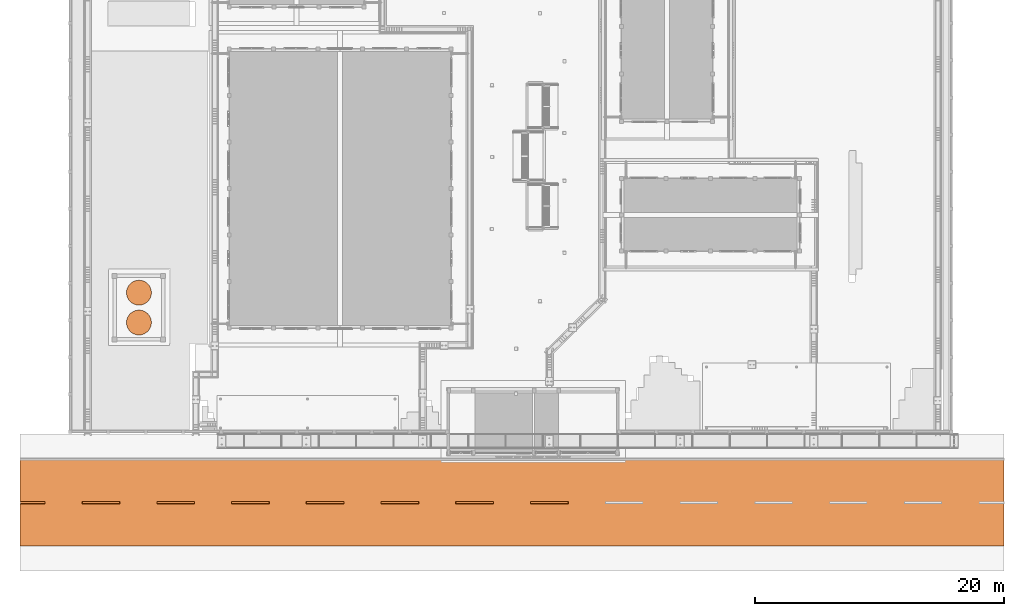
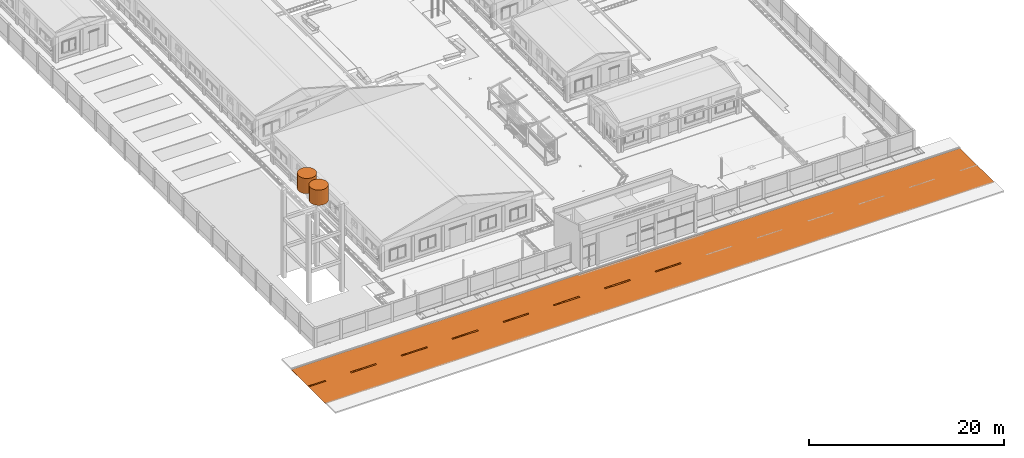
# One storey, part 145 of 151: 11 proxies.
"""IFC2X3 building model written with IfcOpenShell, lengths in metres."""

import ifcopenshell
import ifcopenshell.guid

model = None  # the IFC model being written
_history = None  # IfcOwnerHistory: only IFC2X3 demands one
_inside = {}  # id of a spatial element -> (the spatial element, [elements in it])
_under = {}  # id of a project, library or spatial element -> (it, [spatial elements below it])
_declared = {}  # id of a project -> (the project, [libraries it declares])
_typed = {}  # id of a type object -> (the type object, [elements of that type])
_made_of = {}  # id of a material, layer set ... -> (it, [elements and type objects made of it])


def new_model(schema):
    """Start an empty IFC model of exactly this schema.

    Asked for "IFC4X3", IfcOpenShell would pick the latest addendum, in which some entities
    have other attributes; the version numbers below select the first issue.
    IFC2X3 requires an IfcOwnerHistory on every rooted entity: one is made here for all.
    """
    global model, _history
    if schema == "IFC4X3":
        model = ifcopenshell.file(schema_version=(4, 3, 0, 0))
    else:
        model = ifcopenshell.file(schema=schema)
    _inside.clear()
    _under.clear()
    _declared.clear()
    _typed.clear()
    _made_of.clear()
    _history = None
    if model.schema == "IFC2X3":
        org = make("IfcOrganization", Name="unknown")
        user = make(
            "IfcPersonAndOrganization",
            ThePerson=make("IfcPerson", FamilyName="unknown"),
            TheOrganization=org,
        )
        app = make(
            "IfcApplication",
            ApplicationDeveloper=org,
            Version="unknown",
            ApplicationFullName="unknown",
            ApplicationIdentifier="unknown",
        )
        _history = make(
            "IfcOwnerHistory",
            OwningUser=user,
            OwningApplication=app,
            ChangeAction="ADDED",
            CreationDate=0,
        )
    return model


def make(cls, **values):
    """One entity of the class cls with the attributes given. An attribute that is None is left unset."""
    return model.create_entity(
        cls, **{name: value for name, value in values.items() if value is not None}
    )


def rooted(cls, **values):
    """An entity with a GlobalId (a new one), such as an element, a storey or a relation."""
    return make(cls, GlobalId=ifcopenshell.guid.new(), OwnerHistory=_history, **values)


def si_unit(unit_type, name, prefix=None):
    """IfcSIUnit, for example si_unit("LENGTHUNIT", "METRE", prefix="MILLI")."""
    return make("IfcSIUnit", UnitType=unit_type, Prefix=prefix, Name=name)


def assignment(units):
    """IfcUnitAssignment: the units of a project."""
    return None if units is None else make("IfcUnitAssignment", Units=units)


def point(xyz):
    """IfcCartesianPoint."""
    return None if xyz is None else make("IfcCartesianPoint", Coordinates=xyz)


def direction(xyz):
    """IfcDirection."""
    return None if xyz is None else make("IfcDirection", DirectionRatios=xyz)


def frame(location, z_axis=None, x_axis=None):
    """IfcAxis2Placement3D, a coordinate frame: its origin and axes. An axis left out is left unset."""
    return make(
        "IfcAxis2Placement3D",
        Location=point(location),
        Axis=direction(z_axis),
        RefDirection=direction(x_axis),
    )


def origin():
    """The frame at (0, 0, 0) with its axes left unset."""
    return frame((0.0, 0.0, 0.0))


def origin_with_axes():
    """The frame at (0, 0, 0) with the z axis (0, 0, 1) and the x axis (1, 0, 0) written out."""
    return frame((0.0, 0.0, 0.0), z_axis=(0.0, 0.0, 1.0), x_axis=(1.0, 0.0, 0.0))


def place(relative_to, where):
    """IfcLocalPlacement: puts the frame where relative to a parent placement (None: the world)."""
    return make(
        "IfcLocalPlacement", PlacementRelTo=relative_to, RelativePlacement=where
    )


def context(
    kind, dimensions, precision=None, world=None, true_north=None, identifier=None
):
    """IfcGeometricRepresentationContext, for example the 3D "Model" context."""
    return make(
        "IfcGeometricRepresentationContext",
        ContextIdentifier=identifier,
        ContextType=kind,
        CoordinateSpaceDimension=dimensions,
        Precision=precision,
        WorldCoordinateSystem=world,
        TrueNorth=true_north,
    )


def subcontext(parent, identifier, kind, view, scale=None):
    """IfcGeometricRepresentationSubContext, for example "Body" below "Model"."""
    return make(
        "IfcGeometricRepresentationSubContext",
        ContextIdentifier=identifier,
        ContextType=kind,
        ParentContext=parent,
        TargetScale=scale,
        TargetView=view,
    )


def project(units=None, contexts=None):
    """IfcProject with its units and contexts."""
    return rooted(
        "IfcProject",
        Name="project",
        RepresentationContexts=contexts,
        UnitsInContext=assignment(units),
    )


def spatial(cls, under=None, at=None, **own):
    """A site, building, storey or space (cls), placed at a placement, below another one or the project."""
    s = rooted(cls, ObjectPlacement=at, **own)
    if under is not None:
        _under.setdefault(under.id(), (under, []))[1].append(s)
    return s


def faces_of(points, faces, orient=None, outer=None):
    """IfcFace entities. A face is a list of loops; a loop is a list of indices into points, from 0.

    orient and outer hold one flag for each loop. By default every Orientation is true, the
    first loop of a face is its IfcFaceOuterBound and the others are IfcFaceBound.
    """
    made = []
    for i, loops in enumerate(faces):
        bounds = []
        for j, loop in enumerate(loops):
            is_outer = j == 0 if outer is None else outer[i][j]
            bounds.append(
                make(
                    "IfcFaceOuterBound" if is_outer else "IfcFaceBound",
                    Bound=make("IfcPolyLoop", Polygon=[points[k] for k in loop]),
                    Orientation=True if orient is None else orient[i][j],
                )
            )
        made.append(make("IfcFace", Bounds=bounds))
    return made


def faceted_brep(points, faces, orient=None, outer=None, voids=None):
    """IfcFacetedBrep: a solid bounded by flat faces; with voids (closed shells), ...WithVoids."""
    shared = [point(p) for p in points]
    hull = make("IfcClosedShell", CfsFaces=faces_of(shared, faces, orient, outer))
    if voids is None:
        return make("IfcFacetedBrep", Outer=hull)
    return make(
        "IfcFacetedBrepWithVoids",
        Outer=hull,
        Voids=[
            make(cls, CfsFaces=faces_of(shared, fs, o, b)) for cls, fs, o, b in voids
        ],
    )


def shape(context_of_items, identifier, shape_type, items):
    """IfcShapeRepresentation: the items that make up one representation, for example the "Body"."""
    return make(
        "IfcShapeRepresentation",
        ContextOfItems=context_of_items,
        RepresentationIdentifier=identifier,
        RepresentationType=shape_type,
        Items=items,
    )


def made_of(thing, what):
    """Note that an element or type object is made of a material, layer set ...; save() writes the relation."""
    if what is not None:
        _made_of.setdefault(what.id(), (what, []))[1].append(thing)
    return thing


def element(
    cls,
    number,
    at=None,
    inside=None,
    cuts=None,
    type_object=None,
    material=None,
    context=None,
    identifier="Body",
    shape_type=None,
    held_by="IfcProductDefinitionShape",
    body=None,
    shapes=None,
    **own,
):
    """One element of the class cls, such as IfcWall. Its Tag is "e" and its number.

    at: its placement. inside: the storey or other place that contains it. cuts: it is an
    opening in that element (IfcRelVoidsElement). A single representation is given by context,
    identifier, shape_type and body (its items); several are given by shapes. held_by: the class
    of the entity that holds the representations. save() writes the other relations.
    """
    e = rooted(cls, Tag="e%d" % number, ObjectPlacement=at, **own)
    if body is not None:
        shapes = [shape(context, identifier, shape_type, body)]
    if shapes is not None:
        e.Representation = make(held_by, Representations=shapes)
    if inside is not None:
        _inside.setdefault(inside.id(), (inside, []))[1].append(e)
    if cuts is not None:
        rooted(
            "IfcRelVoidsElement", RelatingBuildingElement=cuts, RelatedOpeningElement=e
        )
    if type_object is not None:
        _typed.setdefault(type_object.id(), (type_object, []))[1].append(e)
    return made_of(e, material)


def aggregate(whole, parts):
    """IfcRelAggregates: a whole, such as a stair, and the parts it consists of."""
    return rooted("IfcRelAggregates", RelatingObject=whole, RelatedObjects=parts)


def save(model, path):
    """Write the relations noted so far, then the file.

    IfcRelAggregates (storeys below a building ...), IfcRelContainedInSpatialStructure (elements
    in a storey), IfcRelDefinesByType, IfcRelAssociatesMaterial and IfcRelDeclares: one each for
    every whole, place, type object, material and project.
    """
    for whole, parts in _under.values():
        aggregate(whole, parts)
    for where, things in _inside.values():
        rooted(
            "IfcRelContainedInSpatialStructure",
            RelatedElements=things,
            RelatingStructure=where,
        )
    for kind, things in _typed.values():
        rooted("IfcRelDefinesByType", RelatedObjects=things, RelatingType=kind)
    for what, things in _made_of.values():
        rooted("IfcRelAssociatesMaterial", RelatedObjects=things, RelatingMaterial=what)
    for by, libraries in _declared.values():
        rooted("IfcRelDeclares", RelatingContext=by, RelatedDefinitions=libraries)
    model.write(path)


model = new_model("IFC2X3")

# Units and contexts
model_context = context("Model", 3, precision=1e-05, world=origin_with_axes())
body_context = subcontext(model_context, "Body", "Model", "MODEL_VIEW")
ifc_project = project(units=[si_unit("LENGTHUNIT", "METRE"), si_unit("AREAUNIT", "SQUARE_METRE"), si_unit("VOLUMEUNIT", "CUBIC_METRE"), si_unit("PLANEANGLEUNIT", "RADIAN")], contexts=[model_context])

# Site, building, storey
site_placement = place(None, origin_with_axes())
site = spatial("IfcSite", under=ifc_project, at=site_placement, Name="Predio Los Mangos - Morales, San Martín", CompositionType="ELEMENT")
building_placement = place(site_placement, origin())
building = spatial("IfcBuilding", under=site, at=building_placement, Name="Hogar de Refugio Temporal", CompositionType="ELEMENT")
storey_placement = place(building_placement, origin())
storey = spatial("IfcBuildingStorey", under=building, at=storey_placement, Name="NIVEL 1 (NPT +0.00)", CompositionType="ELEMENT", Elevation=0.0)

# Proxies
proxy_1_placement = place(storey_placement, origin())
element("IfcBuildingElementProxy", 1, at=proxy_1_placement, inside=storey, Name="pista", ObjectType="Losa deportiva y vía", context=body_context, shape_type="Brep", body=[
    faceted_brep([(-3.0, 8.8, -0.02), (-3.0, 15.8, -0.02), (76.0, 15.8, -0.02), (76.0, 8.8, -0.02), (-3.0, 8.8, 0.02), (76.0, 8.8, 0.02), (76.0, 15.8, 0.02), (-3.0, 15.8, 0.02)], [[[0, 1, 2, 3]], [[4, 5, 6, 7]], [[0, 3, 5, 4]], [[3, 2, 6, 5]], [[2, 1, 7, 6]], [[1, 0, 4, 7]]]),
])
proxy_2_placement = place(storey_placement, origin())
element("IfcBuildingElementProxy", 2, at=proxy_2_placement, inside=storey, Name="linea_carril", ObjectType="Losa deportiva y vía", context=body_context, shape_type="Brep", body=[
    faceted_brep([(-3.0, 12.22, 0.02), (-3.0, 12.38, 0.02), (-1.0, 12.38, 0.02), (-1.0, 12.22, 0.02), (-3.0, 12.22, 0.025), (-1.0, 12.22, 0.025), (-1.0, 12.38, 0.025), (-3.0, 12.38, 0.025)], [[[0, 1, 2, 3]], [[4, 5, 6, 7]], [[0, 3, 5, 4]], [[3, 2, 6, 5]], [[2, 1, 7, 6]], [[1, 0, 4, 7]]]),
])
proxy_3_placement = place(storey_placement, origin())
element("IfcBuildingElementProxy", 3, at=proxy_3_placement, inside=storey, Name="linea_carril", ObjectType="Losa deportiva y vía", context=body_context, shape_type="Brep", body=[
    faceted_brep([(2.0, 12.22, 0.02), (2.0, 12.38, 0.02), (5.0, 12.38, 0.02), (5.0, 12.22, 0.02), (2.0, 12.22, 0.025), (5.0, 12.22, 0.025), (5.0, 12.38, 0.025), (2.0, 12.38, 0.025)], [[[0, 1, 2, 3]], [[4, 5, 6, 7]], [[0, 3, 5, 4]], [[3, 2, 6, 5]], [[2, 1, 7, 6]], [[1, 0, 4, 7]]]),
])
proxy_4_placement = place(storey_placement, origin())
element("IfcBuildingElementProxy", 4, at=proxy_4_placement, inside=storey, Name="linea_carril", ObjectType="Losa deportiva y vía", context=body_context, shape_type="Brep", body=[
    faceted_brep([(8.0, 12.22, 0.02), (8.0, 12.38, 0.02), (11.0, 12.38, 0.02), (11.0, 12.22, 0.02), (8.0, 12.22, 0.025), (11.0, 12.22, 0.025), (11.0, 12.38, 0.025), (8.0, 12.38, 0.025)], [[[0, 1, 2, 3]], [[4, 5, 6, 7]], [[0, 3, 5, 4]], [[3, 2, 6, 5]], [[2, 1, 7, 6]], [[1, 0, 4, 7]]]),
])
proxy_5_placement = place(storey_placement, origin())
element("IfcBuildingElementProxy", 5, at=proxy_5_placement, inside=storey, Name="linea_carril", ObjectType="Losa deportiva y vía", context=body_context, shape_type="Brep", body=[
    faceted_brep([(14.0, 12.22, 0.02), (14.0, 12.38, 0.02), (17.0, 12.38, 0.02), (17.0, 12.22, 0.02), (14.0, 12.22, 0.025), (17.0, 12.22, 0.025), (17.0, 12.38, 0.025), (14.0, 12.38, 0.025)], [[[0, 1, 2, 3]], [[4, 5, 6, 7]], [[0, 3, 5, 4]], [[3, 2, 6, 5]], [[2, 1, 7, 6]], [[1, 0, 4, 7]]]),
])
proxy_6_placement = place(storey_placement, origin())
element("IfcBuildingElementProxy", 6, at=proxy_6_placement, inside=storey, Name="linea_carril", ObjectType="Losa deportiva y vía", context=body_context, shape_type="Brep", body=[
    faceted_brep([(20.0, 12.22, 0.02), (20.0, 12.38, 0.02), (23.0, 12.38, 0.02), (23.0, 12.22, 0.02), (20.0, 12.22, 0.025), (23.0, 12.22, 0.025), (23.0, 12.38, 0.025), (20.0, 12.38, 0.025)], [[[0, 1, 2, 3]], [[4, 5, 6, 7]], [[0, 3, 5, 4]], [[3, 2, 6, 5]], [[2, 1, 7, 6]], [[1, 0, 4, 7]]]),
])
proxy_7_placement = place(storey_placement, origin())
element("IfcBuildingElementProxy", 7, at=proxy_7_placement, inside=storey, Name="linea_carril", ObjectType="Losa deportiva y vía", context=body_context, shape_type="Brep", body=[
    faceted_brep([(26.0, 12.22, 0.02), (26.0, 12.38, 0.02), (29.0, 12.38, 0.02), (29.0, 12.22, 0.02), (26.0, 12.22, 0.025), (29.0, 12.22, 0.025), (29.0, 12.38, 0.025), (26.0, 12.38, 0.025)], [[[0, 1, 2, 3]], [[4, 5, 6, 7]], [[0, 3, 5, 4]], [[3, 2, 6, 5]], [[2, 1, 7, 6]], [[1, 0, 4, 7]]]),
])
proxy_8_placement = place(storey_placement, origin())
element("IfcBuildingElementProxy", 8, at=proxy_8_placement, inside=storey, Name="linea_carril", ObjectType="Losa deportiva y vía", context=body_context, shape_type="Brep", body=[
    faceted_brep([(32.0, 12.22, 0.02), (32.0, 12.38, 0.02), (35.0, 12.38, 0.02), (35.0, 12.22, 0.02), (32.0, 12.22, 0.025), (35.0, 12.22, 0.025), (35.0, 12.38, 0.025), (32.0, 12.38, 0.025)], [[[0, 1, 2, 3]], [[4, 5, 6, 7]], [[0, 3, 5, 4]], [[3, 2, 6, 5]], [[2, 1, 7, 6]], [[1, 0, 4, 7]]]),
])
proxy_9_placement = place(storey_placement, origin())
element("IfcBuildingElementProxy", 9, at=proxy_9_placement, inside=storey, Name="linea_carril", ObjectType="Losa deportiva y vía", context=body_context, shape_type="Brep", body=[
    faceted_brep([(38.0, 12.22, 0.02), (38.0, 12.38, 0.02), (41.0, 12.38, 0.02), (41.0, 12.22, 0.02), (38.0, 12.22, 0.025), (41.0, 12.22, 0.025), (41.0, 12.38, 0.025), (38.0, 12.38, 0.025)], [[[0, 1, 2, 3]], [[4, 5, 6, 7]], [[0, 3, 5, 4]], [[3, 2, 6, 5]], [[2, 1, 7, 6]], [[1, 0, 4, 7]]]),
])
proxy_10_placement = place(storey_placement, origin())
element("IfcBuildingElementProxy", 10, at=proxy_10_placement, inside=storey, Name="Cylinder", ObjectType="Elemento", context=body_context, shape_type="Brep", body=[
    faceted_brep([(6.55, 27.75, 11.25), (6.55, 27.75, 13.15), (6.7451, 27.7308, 13.15), (6.7451, 27.7308, 11.25), (6.9327, 27.6739, 13.15), (6.9327, 27.6739, 11.25), (7.1056, 27.5815, 13.15), (7.1056, 27.5815, 11.25), (7.2571, 27.4571, 13.15), (7.2571, 27.4571, 11.25), (7.3815, 27.3056, 13.15), (7.3815, 27.3056, 11.25), (7.4739, 27.1327, 13.15), (7.4739, 27.1327, 11.25), (7.5308, 26.9451, 13.15), (7.5308, 26.9451, 11.25), (7.55, 26.75, 13.15), (7.55, 26.75, 11.25), (7.5308, 26.5549, 13.15), (7.5308, 26.5549, 11.25), (7.4739, 26.3673, 13.15), (7.4739, 26.3673, 11.25), (7.3815, 26.1944, 13.15), (7.3815, 26.1944, 11.25), (7.2571, 26.0429, 13.15), (7.2571, 26.0429, 11.25), (7.1056, 25.9185, 13.15), (7.1056, 25.9185, 11.25), (6.9327, 25.8261, 13.15), (6.9327, 25.8261, 11.25), (6.7451, 25.7692, 13.15), (6.7451, 25.7692, 11.25), (6.55, 25.75, 13.15), (6.55, 25.75, 11.25), (6.3549, 25.7692, 13.15), (6.3549, 25.7692, 11.25), (6.1673, 25.8261, 13.15), (6.1673, 25.8261, 11.25), (5.9944, 25.9185, 13.15), (5.9944, 25.9185, 11.25), (5.8429, 26.0429, 13.15), (5.8429, 26.0429, 11.25), (5.7185, 26.1944, 13.15), (5.7185, 26.1944, 11.25), (5.6261, 26.3673, 13.15), (5.6261, 26.3673, 11.25), (5.5692, 26.5549, 13.15), (5.5692, 26.5549, 11.25), (5.55, 26.75, 13.15), (5.55, 26.75, 11.25), (5.5692, 26.9451, 13.15), (5.5692, 26.9451, 11.25), (5.6261, 27.1327, 13.15), (5.6261, 27.1327, 11.25), (5.7185, 27.3056, 13.15), (5.7185, 27.3056, 11.25), (5.8429, 27.4571, 13.15), (5.8429, 27.4571, 11.25), (5.9944, 27.5815, 13.15), (5.9944, 27.5815, 11.25), (6.1673, 27.6739, 13.15), (6.1673, 27.6739, 11.25), (6.3549, 27.7308, 13.15), (6.3549, 27.7308, 11.25)], [[[0, 1, 2, 3]], [[3, 2, 4, 5]], [[5, 4, 6, 7]], [[7, 6, 8, 9]], [[9, 8, 10, 11]], [[11, 10, 12, 13]], [[13, 12, 14, 15]], [[15, 14, 16, 17]], [[17, 16, 18, 19]], [[19, 18, 20, 21]], [[21, 20, 22, 23]], [[23, 22, 24, 25]], [[25, 24, 26, 27]], [[27, 26, 28, 29]], [[29, 28, 30, 31]], [[31, 30, 32, 33]], [[33, 32, 34, 35]], [[35, 34, 36, 37]], [[37, 36, 38, 39]], [[39, 38, 40, 41]], [[41, 40, 42, 43]], [[43, 42, 44, 45]], [[45, 44, 46, 47]], [[47, 46, 48, 49]], [[49, 48, 50, 51]], [[51, 50, 52, 53]], [[53, 52, 54, 55]], [[55, 54, 56, 57]], [[57, 56, 58, 59]], [[59, 58, 60, 61]], [[2, 1, 62, 60, 58, 56, 54, 52, 50, 48, 46, 44, 42, 40, 38, 36, 34, 32, 30, 28, 26, 24, 22, 20, 18, 16, 14, 12, 10, 8, 6, 4]], [[61, 60, 62, 63]], [[63, 62, 1, 0]], [[0, 3, 5, 7, 9, 11, 13, 15, 17, 19, 21, 23, 25, 27, 29, 31, 33, 35, 37, 39, 41, 43, 45, 47, 49, 51, 53, 55, 57, 59, 61, 63]]]),
])
proxy_11_placement = place(storey_placement, origin())
element("IfcBuildingElementProxy", 11, at=proxy_11_placement, inside=storey, Name="Cylinder", ObjectType="Elemento", context=body_context, shape_type="Brep", body=[
    faceted_brep([(6.55, 30.15, 11.25), (6.55, 30.15, 13.15), (6.7451, 30.1308, 13.15), (6.7451, 30.1308, 11.25), (6.9327, 30.0739, 13.15), (6.9327, 30.0739, 11.25), (7.1056, 29.9815, 13.15), (7.1056, 29.9815, 11.25), (7.2571, 29.8571, 13.15), (7.2571, 29.8571, 11.25), (7.3815, 29.7056, 13.15), (7.3815, 29.7056, 11.25), (7.4739, 29.5327, 13.15), (7.4739, 29.5327, 11.25), (7.5308, 29.3451, 13.15), (7.5308, 29.3451, 11.25), (7.55, 29.15, 13.15), (7.55, 29.15, 11.25), (7.5308, 28.9549, 13.15), (7.5308, 28.9549, 11.25), (7.4739, 28.7673, 13.15), (7.4739, 28.7673, 11.25), (7.3815, 28.5944, 13.15), (7.3815, 28.5944, 11.25), (7.2571, 28.4429, 13.15), (7.2571, 28.4429, 11.25), (7.1056, 28.3185, 13.15), (7.1056, 28.3185, 11.25), (6.9327, 28.2261, 13.15), (6.9327, 28.2261, 11.25), (6.7451, 28.1692, 13.15), (6.7451, 28.1692, 11.25), (6.55, 28.15, 13.15), (6.55, 28.15, 11.25), (6.3549, 28.1692, 13.15), (6.3549, 28.1692, 11.25), (6.1673, 28.2261, 13.15), (6.1673, 28.2261, 11.25), (5.9944, 28.3185, 13.15), (5.9944, 28.3185, 11.25), (5.8429, 28.4429, 13.15), (5.8429, 28.4429, 11.25), (5.7185, 28.5944, 13.15), (5.7185, 28.5944, 11.25), (5.6261, 28.7673, 13.15), (5.6261, 28.7673, 11.25), (5.5692, 28.9549, 13.15), (5.5692, 28.9549, 11.25), (5.55, 29.15, 13.15), (5.55, 29.15, 11.25), (5.5692, 29.3451, 13.15), (5.5692, 29.3451, 11.25), (5.6261, 29.5327, 13.15), (5.6261, 29.5327, 11.25), (5.7185, 29.7056, 13.15), (5.7185, 29.7056, 11.25), (5.8429, 29.8571, 13.15), (5.8429, 29.8571, 11.25), (5.9944, 29.9815, 13.15), (5.9944, 29.9815, 11.25), (6.1673, 30.0739, 13.15), (6.1673, 30.0739, 11.25), (6.3549, 30.1308, 13.15), (6.3549, 30.1308, 11.25)], [[[0, 1, 2, 3]], [[3, 2, 4, 5]], [[5, 4, 6, 7]], [[7, 6, 8, 9]], [[9, 8, 10, 11]], [[11, 10, 12, 13]], [[13, 12, 14, 15]], [[15, 14, 16, 17]], [[17, 16, 18, 19]], [[19, 18, 20, 21]], [[21, 20, 22, 23]], [[23, 22, 24, 25]], [[25, 24, 26, 27]], [[27, 26, 28, 29]], [[29, 28, 30, 31]], [[31, 30, 32, 33]], [[33, 32, 34, 35]], [[35, 34, 36, 37]], [[37, 36, 38, 39]], [[39, 38, 40, 41]], [[41, 40, 42, 43]], [[43, 42, 44, 45]], [[45, 44, 46, 47]], [[47, 46, 48, 49]], [[49, 48, 50, 51]], [[51, 50, 52, 53]], [[53, 52, 54, 55]], [[55, 54, 56, 57]], [[57, 56, 58, 59]], [[59, 58, 60, 61]], [[2, 1, 62, 60, 58, 56, 54, 52, 50, 48, 46, 44, 42, 40, 38, 36, 34, 32, 30, 28, 26, 24, 22, 20, 18, 16, 14, 12, 10, 8, 6, 4]], [[61, 60, 62, 63]], [[63, 62, 1, 0]], [[0, 3, 5, 7, 9, 11, 13, 15, 17, 19, 21, 23, 25, 27, 29, 31, 33, 35, 37, 39, 41, 43, 45, 47, 49, 51, 53, 55, 57, 59, 61, 63]]]),
])

save(model, "model.ifc")
